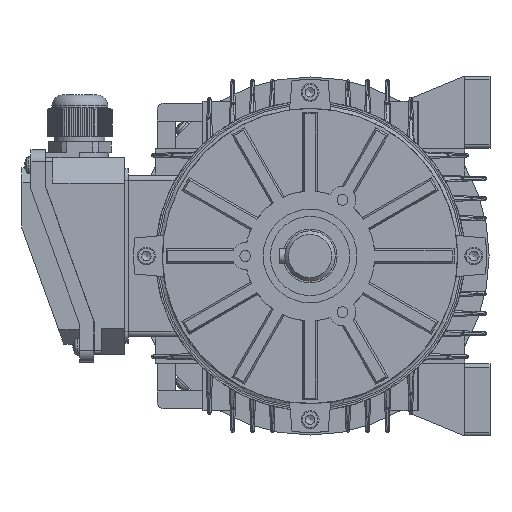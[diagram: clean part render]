
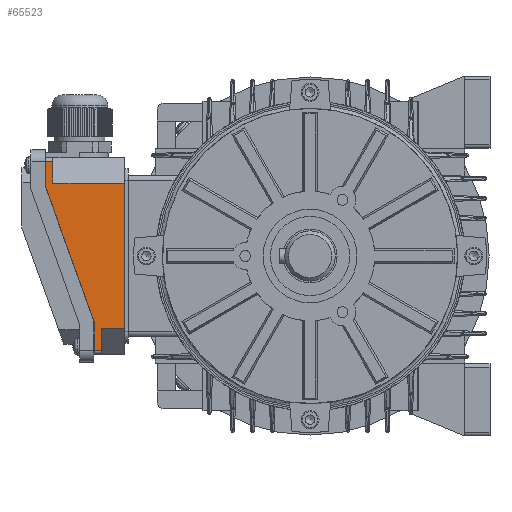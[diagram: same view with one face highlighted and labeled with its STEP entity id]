
A CAD part, left-side view. The second image highlights one B-rep face of the part: STEP entity #65523.
In plain terms, the highlighted planar face has unit normal (-1, 0, 0).
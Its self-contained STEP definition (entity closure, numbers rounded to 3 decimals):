
#8070=FACE_OUTER_BOUND('',#11862,.T.);
#11862=EDGE_LOOP('',(#49390,#49391,#49392,#49393,#49394,#49395,#49396,#49397,
#49398,#49399));
#16115=LINE('',#116039,#21366);
#16133=LINE('',#116091,#21384);
#16140=LINE('',#116110,#21391);
#16142=LINE('',#116116,#21393);
#16143=LINE('',#116125,#21394);
#16147=LINE('',#116134,#21398);
#16148=LINE('',#116137,#21399);
#16149=LINE('',#116139,#21400);
#16150=LINE('',#116140,#21401);
#16151=LINE('',#116141,#21402);
#21366=VECTOR('',#81759,81.);
#21384=VECTOR('',#81803,14.);
#21391=VECTOR('',#81818,79.712);
#21393=VECTOR('',#81824,16.);
#21394=VECTOR('',#81833,4.);
#21398=VECTOR('',#81843,4.);
#21399=VECTOR('',#81846,13.);
#21400=VECTOR('',#81847,40.);
#21401=VECTOR('',#81848,12.);
#21402=VECTOR('',#81849,12.);
#27607=VERTEX_POINT('',#116036);
#27608=VERTEX_POINT('',#116038);
#27628=VERTEX_POINT('',#116088);
#27629=VERTEX_POINT('',#116090);
#27637=VERTEX_POINT('',#116108);
#27639=VERTEX_POINT('',#116114);
#27643=VERTEX_POINT('',#116123);
#27644=VERTEX_POINT('',#116130);
#27646=VERTEX_POINT('',#116136);
#27647=VERTEX_POINT('',#116138);
#35496=EDGE_CURVE('',#27607,#27608,#16115,.T.);
#35522=EDGE_CURVE('',#27628,#27629,#16133,.T.);
#35532=EDGE_CURVE('',#27628,#27637,#16140,.T.);
#35535=EDGE_CURVE('',#27637,#27639,#16142,.T.);
#35539=EDGE_CURVE('',#27643,#27639,#16143,.T.);
#35544=EDGE_CURVE('',#27629,#27644,#16147,.T.);
#35545=EDGE_CURVE('',#27646,#27608,#16148,.T.);
#35546=EDGE_CURVE('',#27607,#27647,#16149,.T.);
#35547=EDGE_CURVE('',#27647,#27644,#16150,.T.);
#35548=EDGE_CURVE('',#27643,#27646,#16151,.T.);
#49390=ORIENTED_EDGE('',*,*,#35545,.T.);
#49391=ORIENTED_EDGE('',*,*,#35496,.F.);
#49392=ORIENTED_EDGE('',*,*,#35546,.T.);
#49393=ORIENTED_EDGE('',*,*,#35547,.T.);
#49394=ORIENTED_EDGE('',*,*,#35544,.F.);
#49395=ORIENTED_EDGE('',*,*,#35522,.F.);
#49396=ORIENTED_EDGE('',*,*,#35532,.T.);
#49397=ORIENTED_EDGE('',*,*,#35535,.T.);
#49398=ORIENTED_EDGE('',*,*,#35539,.F.);
#49399=ORIENTED_EDGE('',*,*,#35548,.T.);
#58709=PLANE('',#70542);
#65523=ADVANCED_FACE('',(#8070),#58709,.T.);
#70542=AXIS2_PLACEMENT_3D('',#116135,#81844,#81845);
#81759=DIRECTION('',(0.,0.,-1.));
#81803=DIRECTION('',(0.,0.,1.));
#81818=DIRECTION('',(0.,-0.339,-0.941));
#81824=DIRECTION('',(0.,0.,-1.));
#81833=DIRECTION('',(0.,1.,0.));
#81843=DIRECTION('',(0.,-1.,0.));
#81844=DIRECTION('center_axis',(-1.,0.,0.));
#81845=DIRECTION('ref_axis',(0.,0.,1.));
#81846=DIRECTION('',(0.,-1.,0.));
#81847=DIRECTION('',(0.,1.,0.));
#81848=DIRECTION('',(0.,0.,1.));
#81849=DIRECTION('',(0.,0.,1.));
#116036=CARTESIAN_POINT('',(-316.675,220.586,40.5));
#116038=CARTESIAN_POINT('',(-316.675,220.586,-40.5));
#116039=CARTESIAN_POINT('',(-316.675,220.586,54.5));
#116088=CARTESIAN_POINT('',(-316.675,264.586,38.5));
#116090=CARTESIAN_POINT('',(-316.675,264.586,52.5));
#116091=CARTESIAN_POINT('',(-316.675,264.586,54.5));
#116108=CARTESIAN_POINT('',(-316.675,237.586,-36.5));
#116110=CARTESIAN_POINT('',(-316.675,247.243,-9.676));
#116114=CARTESIAN_POINT('',(-316.675,237.586,-52.5));
#116116=CARTESIAN_POINT('',(-316.675,237.586,-45.5));
#116123=CARTESIAN_POINT('',(-316.675,233.586,-52.5));
#116125=CARTESIAN_POINT('',(-316.675,220.586,-52.5));
#116130=CARTESIAN_POINT('',(-316.675,260.586,52.5));
#116134=CARTESIAN_POINT('',(-316.675,220.586,52.5));
#116135=CARTESIAN_POINT('Origin',(-316.675,220.586,-54.5));
#116136=CARTESIAN_POINT('',(-316.675,233.586,-40.5));
#116137=CARTESIAN_POINT('',(-316.675,220.586,-40.5));
#116138=CARTESIAN_POINT('',(-316.675,260.586,40.5));
#116139=CARTESIAN_POINT('',(-316.675,220.586,40.5));
#116140=CARTESIAN_POINT('',(-316.675,260.586,-2.56));
#116141=CARTESIAN_POINT('',(-316.675,233.586,-51.94));
